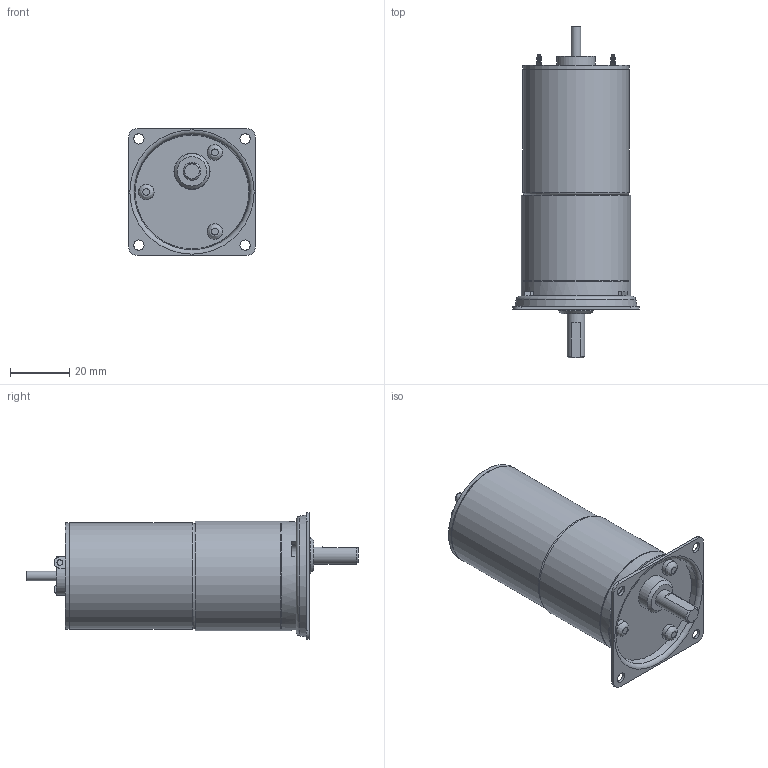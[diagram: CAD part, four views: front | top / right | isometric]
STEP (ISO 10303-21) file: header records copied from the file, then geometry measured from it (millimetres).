
FILE_DESCRIPTION((''),'2;1');
FILE_NAME('C:\Documents and Settings\SSEGAWA\デスクトップ\TP-3644L-PKS-6.STP','2013-07-26T19:11:40',('SSEGAWA'),(''),'Autodesk Inventor 2010','Autodesk Inventor 2010','');
FILE_SCHEMA(('CONFIG_CONTROL_DESIGN'));
Length unit declared in the file: millimetre
Products named in the file (1): tp_3644l_pks_6_Shrinkwrap_1
Bounding box: 43 x 112.5 x 43 mm (x, y, z)
Volume: 85026.2 mm3; surface area: 16122.1 mm2
Topology: 11 solids, 11 shells, 116 faces, 249 edges, 166 vertices
Faces by surface type: plane 54, cylinder 27, bspline 27, cone 4, torus 4
Full cylindrical faces by diameter (mm): 3 x1, 3.175 x1, 3.5 x1, 5.3 x3, 6 x1, 12 x1, 12.2 x1, 13 x1, 35.6 x1, 36 x2, 36.6 x1, 37 x2
Entity records: 3298 total; most frequent: CARTESIAN_POINT 968, DIRECTION 451, ORIENTED_EDGE 340, AXIS2_PLACEMENT_3D 193, EDGE_LOOP 189, EDGE_CURVE 170, VERTEX_POINT 137, STYLED_ITEM 127
